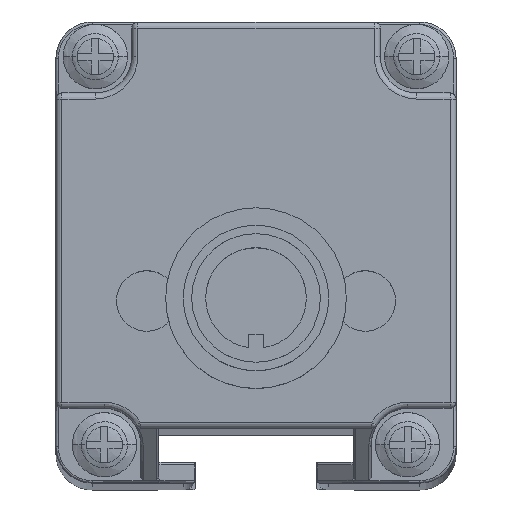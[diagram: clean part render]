
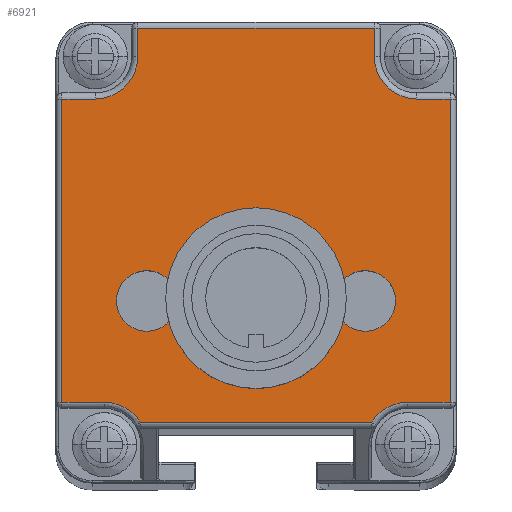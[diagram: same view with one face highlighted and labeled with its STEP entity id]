
A CAD part, top view. The second image highlights one B-rep face of the part: STEP entity #6921.
In plain terms, the highlighted planar face has unit normal (0, 0, 1).
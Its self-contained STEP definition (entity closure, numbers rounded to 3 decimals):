
#2787=CARTESIAN_POINT('',(-11.85,-19.904,
205.276));
#2788=DIRECTION('',(0.,0.,1.));
#2789=DIRECTION('',(0.849,0.528,0.));
#2790=AXIS2_PLACEMENT_3D('',#2787,#2788,#2789);
#2792=CARTESIAN_POINT('',(-12.6,12.094,205.276));
#2793=DIRECTION('',(0.,0.,1.));
#2794=DIRECTION('',(0.,-1.,0.));
#2795=AXIS2_PLACEMENT_3D('',#2792,#2793,#2794);
#2797=CARTESIAN_POINT('',(13.9,12.094,205.276));
#2798=DIRECTION('',(0.,0.,1.));
#2799=DIRECTION('',(-1.,0.,0.));
#2800=AXIS2_PLACEMENT_3D('',#2797,#2798,#2799);
#2802=CARTESIAN_POINT('',(13.15,-19.904,205.276));
#2803=DIRECTION('',(0.,0.,1.));
#2804=DIRECTION('',(0.,1.,0.));
#2805=AXIS2_PLACEMENT_3D('',#2802,#2803,#2804);
#2807=CARTESIAN_POINT('',(9.65,-8.055,205.276));
#2808=DIRECTION('',(0.,0.,1.));
#2809=DIRECTION('',(1.,-0.007,0.));
#2810=AXIS2_PLACEMENT_3D('',#2807,#2808,#2809);
#2812=CARTESIAN_POINT('',(9.65,-8.055,205.276));
#2813=DIRECTION('',(0.,0.,1.));
#2814=DIRECTION('',(-1.,0.007,0.));
#2815=AXIS2_PLACEMENT_3D('',#2812,#2813,#2814);
#2817=CARTESIAN_POINT('',(-8.35,-8.054,
205.276));
#2818=DIRECTION('',(0.,0.,1.));
#2819=DIRECTION('',(1.,0.007,0.));
#2820=AXIS2_PLACEMENT_3D('',#2817,#2818,#2819);
#2822=CARTESIAN_POINT('',(-8.35,-8.054,
205.276));
#2823=DIRECTION('',(0.,0.,1.));
#2824=DIRECTION('',(-1.,-0.007,0.));
#2825=AXIS2_PLACEMENT_3D('',#2822,#2823,#2824);
#2827=CARTESIAN_POINT('',(0.65,-8.054,
205.276));
#2828=DIRECTION('',(0.,0.,1.));
#2829=DIRECTION('',(1.,0.,0.));
#2830=AXIS2_PLACEMENT_3D('',#2827,#2828,#2829);
#2832=CARTESIAN_POINT('',(0.65,-8.054,
205.276));
#2833=DIRECTION('',(0.,0.,1.));
#2834=DIRECTION('',(-1.,0.,0.));
#2835=AXIS2_PLACEMENT_3D('',#2832,#2833,#2834);
#3016=DIRECTION('',(1.,0.,0.));
#3017=VECTOR('',#3016,19.056);
#3018=CARTESIAN_POINT('',(-8.878,-18.056,
205.276));
#3019=LINE('',#3018,#3017);
#3600=DIRECTION('',(0.,1.,0.));
#3601=VECTOR('',#3600,2.35);
#3602=CARTESIAN_POINT('',(10.4,12.094,205.276));
#3603=LINE('',#3602,#3601);
#3623=DIRECTION('',(-1.,0.,0.));
#3624=VECTOR('',#3623,19.5);
#3625=CARTESIAN_POINT('',(10.4,14.444,205.276));
#3626=LINE('',#3625,#3624);
#3647=DIRECTION('',(0.,-1.,0.));
#3648=VECTOR('',#3647,2.35);
#3649=CARTESIAN_POINT('',(-9.1,14.444,205.276));
#3650=LINE('',#3649,#3648);
#3674=DIRECTION('',(-1.,0.,0.));
#3675=VECTOR('',#3674,2.75);
#3676=CARTESIAN_POINT('',(-12.6,8.594,205.276));
#3677=LINE('',#3676,#3675);
#3845=DIRECTION('',(0.,-1.,0.));
#3846=VECTOR('',#3845,24.998);
#3847=CARTESIAN_POINT('',(-15.35,8.594,205.276));
#3848=LINE('',#3847,#3846);
#3884=DIRECTION('',(1.,0.,0.));
#3885=VECTOR('',#3884,3.5);
#3886=CARTESIAN_POINT('',(-15.35,-16.404,
205.276));
#3887=LINE('',#3886,#3885);
#4155=DIRECTION('',(-1.,0.,0.));
#4156=VECTOR('',#4155,2.75);
#4157=CARTESIAN_POINT('',(16.65,8.594,205.276));
#4158=LINE('',#4157,#4156);
#4214=DIRECTION('',(0.,1.,0.));
#4215=VECTOR('',#4214,24.998);
#4216=CARTESIAN_POINT('',(16.65,-16.404,205.276));
#4217=LINE('',#4216,#4215);
#4237=DIRECTION('',(1.,0.,0.));
#4238=VECTOR('',#4237,3.5);
#4239=CARTESIAN_POINT('',(13.15,-16.404,205.276));
#4240=LINE('',#4239,#4238);
#5982=CARTESIAN_POINT('',(12.15,-8.072,205.276));
#5983=VERTEX_POINT('',#5982);
#5984=CARTESIAN_POINT('',(7.15,-8.039,205.276));
#5985=VERTEX_POINT('',#5984);
#5986=CARTESIAN_POINT('',(-8.878,-18.056,
205.276));
#5987=CARTESIAN_POINT('',(-11.85,-16.404,
205.276));
#5988=VERTEX_POINT('',#5986);
#5989=VERTEX_POINT('',#5987);
#5990=CARTESIAN_POINT('',(-15.35,-16.404,
205.276));
#5991=VERTEX_POINT('',#5990);
#5992=CARTESIAN_POINT('',(-15.35,8.594,205.276));
#5993=VERTEX_POINT('',#5992);
#5994=CARTESIAN_POINT('',(-12.6,8.594,205.276));
#5995=VERTEX_POINT('',#5994);
#5996=CARTESIAN_POINT('',(-9.1,12.094,205.276));
#5997=VERTEX_POINT('',#5996);
#5998=CARTESIAN_POINT('',(-9.1,14.444,205.276));
#5999=VERTEX_POINT('',#5998);
#6000=CARTESIAN_POINT('',(10.4,14.444,205.276));
#6001=VERTEX_POINT('',#6000);
#6002=CARTESIAN_POINT('',(10.4,12.094,205.276));
#6003=VERTEX_POINT('',#6002);
#6004=CARTESIAN_POINT('',(13.9,8.594,205.276));
#6005=VERTEX_POINT('',#6004);
#6006=CARTESIAN_POINT('',(16.65,8.594,205.276));
#6007=VERTEX_POINT('',#6006);
#6008=CARTESIAN_POINT('',(16.65,-16.404,205.276));
#6009=VERTEX_POINT('',#6008);
#6010=CARTESIAN_POINT('',(13.15,-16.404,205.276));
#6011=VERTEX_POINT('',#6010);
#6012=CARTESIAN_POINT('',(10.178,-18.056,205.276));
#6013=VERTEX_POINT('',#6012);
#6014=CARTESIAN_POINT('',(-5.85,-8.037,
205.276));
#6015=CARTESIAN_POINT('',(-10.85,-8.07,
205.276));
#6016=VERTEX_POINT('',#6014);
#6017=VERTEX_POINT('',#6015);
#6018=CARTESIAN_POINT('',(3.65,-8.054,205.276));
#6019=CARTESIAN_POINT('',(-2.35,-8.054,
205.276));
#6020=VERTEX_POINT('',#6018);
#6021=VERTEX_POINT('',#6019);
#6870=CARTESIAN_POINT('',(0.65,0.944,
205.276));
#6871=DIRECTION('',(0.,0.,1.));
#6872=DIRECTION('',(1.,0.,0.));
#6873=AXIS2_PLACEMENT_3D('',#6870,#6871,#6872);
#6874=PLANE('',#6873);
#6876=ORIENTED_EDGE('',*,*,#6875,.T.);
#6878=ORIENTED_EDGE('',*,*,#6877,.F.);
#6880=ORIENTED_EDGE('',*,*,#6879,.F.);
#6882=ORIENTED_EDGE('',*,*,#6881,.F.);
#6884=ORIENTED_EDGE('',*,*,#6883,.T.);
#6886=ORIENTED_EDGE('',*,*,#6885,.F.);
#6888=ORIENTED_EDGE('',*,*,#6887,.F.);
#6890=ORIENTED_EDGE('',*,*,#6889,.F.);
#6892=ORIENTED_EDGE('',*,*,#6891,.T.);
#6894=ORIENTED_EDGE('',*,*,#6893,.F.);
#6896=ORIENTED_EDGE('',*,*,#6895,.F.);
#6898=ORIENTED_EDGE('',*,*,#6897,.F.);
#6900=ORIENTED_EDGE('',*,*,#6899,.T.);
#6902=ORIENTED_EDGE('',*,*,#6901,.F.);
#6903=EDGE_LOOP('',(#6876,#6878,#6880,#6882,#6884,#6886,#6888,#6890,#6892,#6894,
#6896,#6898,#6900,#6902));
#6904=FACE_OUTER_BOUND('',#6903,.F.);
#6905=ORIENTED_EDGE('',*,*,#6857,.T.);
#6906=ORIENTED_EDGE('',*,*,#6818,.T.);
#6907=EDGE_LOOP('',(#6905,#6906));
#6908=FACE_BOUND('',#6907,.F.);
#6910=ORIENTED_EDGE('',*,*,#6909,.T.);
#6912=ORIENTED_EDGE('',*,*,#6911,.T.);
#6913=EDGE_LOOP('',(#6910,#6912));
#6914=FACE_BOUND('',#6913,.F.);
#6916=ORIENTED_EDGE('',*,*,#6915,.T.);
#6918=ORIENTED_EDGE('',*,*,#6917,.T.);
#6919=EDGE_LOOP('',(#6916,#6918));
#6920=FACE_BOUND('',#6919,.F.);
#2791=CIRCLE('',#2790,3.5);
#2796=CIRCLE('',#2795,3.5);
#2801=CIRCLE('',#2800,3.5);
#2806=CIRCLE('',#2805,3.5);
#2811=CIRCLE('',#2810,2.5);
#2816=CIRCLE('',#2815,2.5);
#2821=CIRCLE('',#2820,2.5);
#2826=CIRCLE('',#2825,2.5);
#2831=CIRCLE('',#2830,3.);
#2836=CIRCLE('',#2835,3.);
#6818=EDGE_CURVE('',#5985,#5983,#2816,.T.);
#6857=EDGE_CURVE('',#5983,#5985,#2811,.T.);
#6875=EDGE_CURVE('',#5988,#5989,#2791,.T.);
#6877=EDGE_CURVE('',#5991,#5989,#3887,.T.);
#6879=EDGE_CURVE('',#5993,#5991,#3848,.T.);
#6881=EDGE_CURVE('',#5995,#5993,#3677,.T.);
#6883=EDGE_CURVE('',#5995,#5997,#2796,.T.);
#6885=EDGE_CURVE('',#5999,#5997,#3650,.T.);
#6887=EDGE_CURVE('',#6001,#5999,#3626,.T.);
#6889=EDGE_CURVE('',#6003,#6001,#3603,.T.);
#6891=EDGE_CURVE('',#6003,#6005,#2801,.T.);
#6893=EDGE_CURVE('',#6007,#6005,#4158,.T.);
#6895=EDGE_CURVE('',#6009,#6007,#4217,.T.);
#6897=EDGE_CURVE('',#6011,#6009,#4240,.T.);
#6899=EDGE_CURVE('',#6011,#6013,#2806,.T.);
#6901=EDGE_CURVE('',#5988,#6013,#3019,.T.);
#6909=EDGE_CURVE('',#6016,#6017,#2821,.T.);
#6911=EDGE_CURVE('',#6017,#6016,#2826,.T.);
#6915=EDGE_CURVE('',#6020,#6021,#2831,.T.);
#6917=EDGE_CURVE('',#6021,#6020,#2836,.T.);
#6921=ADVANCED_FACE('',(#6904,#6908,#6914,#6920),#6874,.T.);
